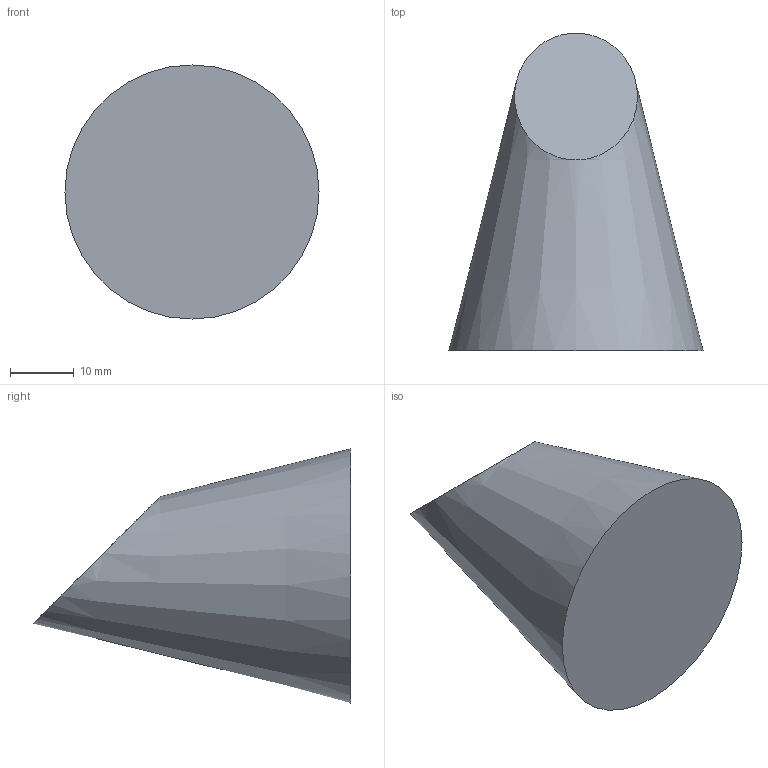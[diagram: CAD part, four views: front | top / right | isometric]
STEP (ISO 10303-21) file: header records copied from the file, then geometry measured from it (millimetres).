
FILE_DESCRIPTION(/* description */ ('','CAx-IF Rec.Pracs.---Representation and Presentation of Product Manufacturing Information (PMI)---4.0---2014-10-13'),/* implementation_level */ '2;1');
FILE_NAME(/* name */ '3.stp',/* time_stamp */ '2026-06-27T14:16:28+01:00',/* author */ ('hunte'),/* organization */ (''),/* preprocessor_version */ 'ST-DEVELOPER v20',/* originating_system */ 'Autodesk Inventor 2024',/* authorisation */ '');
FILE_SCHEMA (('AP242_MANAGED_MODEL_BASED_3D_ENGINEERING_MIM_LF { 1 0 10303 442 1 1 4 }'));
Length unit declared in the file: millimetre
Products named in the file (1): 3
Bounding box: 40 x 50 x 40 mm (x, y, z)
Volume: 29708 mm3; surface area: 5613.9 mm2
Topology: 1 solids, 1 shells, 3 faces, 3 edges, 2 vertices
Faces by surface type: plane 2, cone 1
Entity records: 190 total; most frequent: DIRECTION 39, CARTESIAN_POINT 26, AXIS2_PLACEMENT_3D 19, ORIENTED_EDGE 6, MAPPED_ITEM 5, REPRESENTATION_MAP 5, DRAUGHTING_MODEL 5, MECHANICAL_DESIGN_AND_DRAUGHTING_RELATIONSHIP 4
